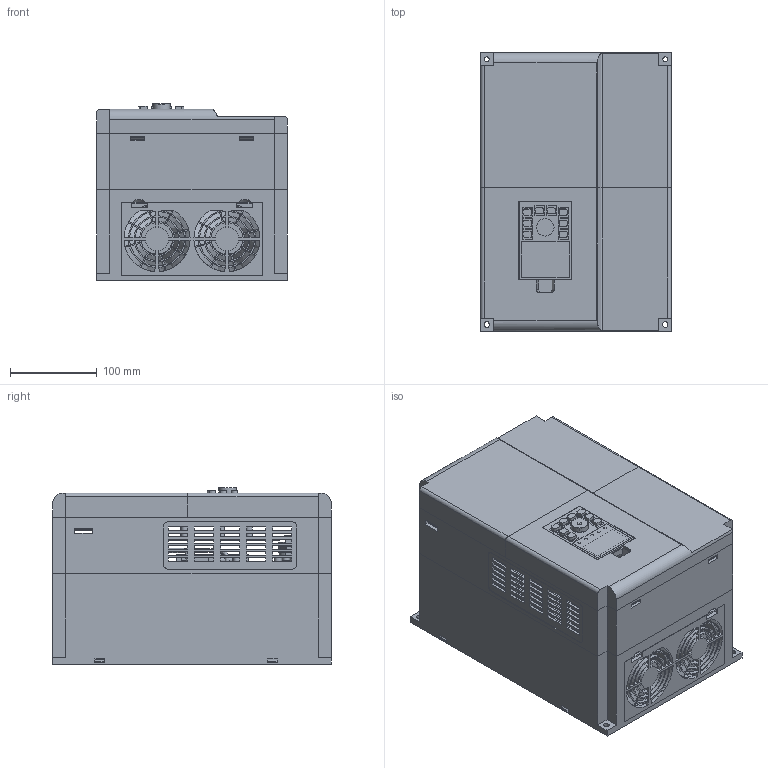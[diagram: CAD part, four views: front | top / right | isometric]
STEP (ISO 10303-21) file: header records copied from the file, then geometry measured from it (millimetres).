
FILE_DESCRIPTION(('STEP AP203'), '1');
FILE_NAME('Ïðåîáðàçîâàòåëü ÷àñòîòû _ LCI-G15P_18.5-4B', '', ('UNSPECIFIED'), ('UNSPECIFIED'), 'C3D Converter', 'C3D Toolkit', '');
FILE_SCHEMA(('CONFIG_CONTROL_DESIGN'));
Length unit declared in the file: millimetre
Products named in the file (18): LCI-G15P_18.5-4B; Панель управления; Панель управленния
Assembly tree (18 placements, depth 3):
  LCI-G15P_18.5-4B
    LCI-G15P_18.5-4B
    LCI-G15P_18.5-4B
    LCI-G15P_18.5-4B
    LCI-G15P_18.5-4B
    LCI-G15P_18.5-4B  x2
    LCI-G15P_18.5-4B
    LCI-G15P_18.5-4B
    LCI-G15P_18.5-4B
    LCI-G15P_18.5-4B
    LCI-G15P_18.5-4B
    LCI-G15P_18.5-4B
      Панель управления
      Панель управленния
      Панель управления
      Панель управления
      Панель управленния
    LCI-G15P_18.5-4B
Bounding box: 219.6 x 320.6 x 203.4 mm (x, y, z)
Volume: 3771231.3 mm3; surface area: 2758941.5 mm2
Topology: 33 solids, 43 shells, 7696 faces, 20844 edges, 13774 vertices
Faces by surface type: plane 5600, extrusion 1256, cylinder 770, bspline 60, torus 10
Full cylindrical faces by diameter (mm): 1.2 x32, 2.4 x4, 2.5 x9, 2.6 x8, 3 x18, 3.4 x8, 3.5 x5, 3.9 x26, 4 x48, 4.5 x6, 4.8 x6, 5 x18, 5.3 x4, 5.5 x6, 5.8 x1, 6 x16, 6.2 x1, 6.5 x6, 7 x1, 8 x28, 8.5 x11, 8.785 x1, 8.822 x8, 8.845 x1, 9.5 x4, 10 x3, 10.3 x4, 11.5 x4, 12 x6, 14 x2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
Entity records: 275226 total; most frequent: CARTESIAN_POINT 63153, ORIENTED_EDGE 40612, DIRECTION 33329, EDGE_CURVE 20306, VECTOR 17343, LINE 16087, VERTEX_POINT 13624, EDGE_LOOP 9176
